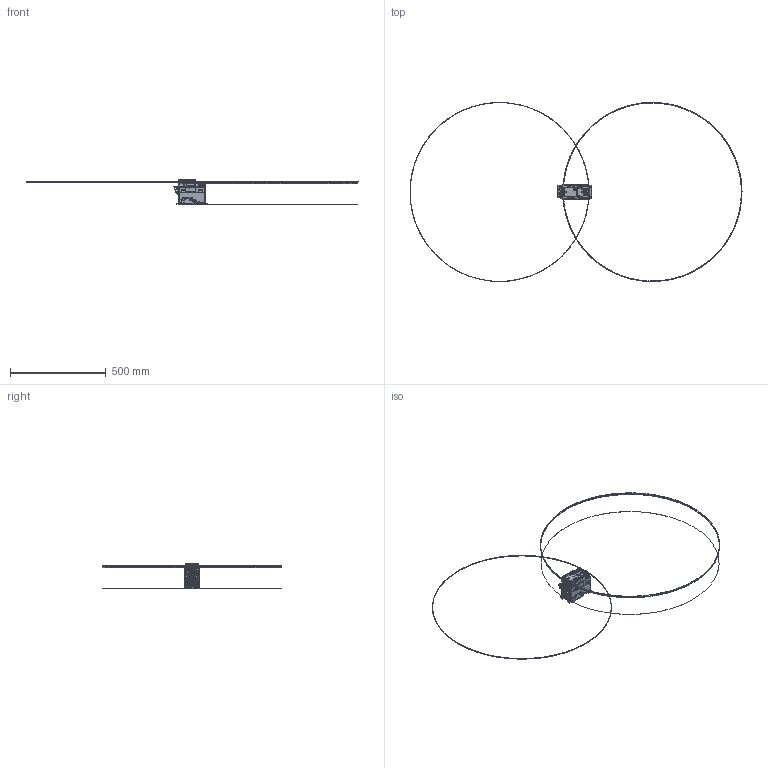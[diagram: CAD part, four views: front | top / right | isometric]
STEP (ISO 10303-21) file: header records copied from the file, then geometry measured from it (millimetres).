
FILE_DESCRIPTION((''),'2;1');
FILE_NAME('M400-SIMPLE_SW0001','2014-02-19T',('owenrh01'),(''),'PRO/ENGINEER BY PARAMETRIC TECHNOLOGY CORPORATION, 2011490','PRO/ENGINEER BY PARAMETRIC TECHNOLOGY CORPORATION, 2011490','');
FILE_SCHEMA(('CONFIG_CONTROL_DESIGN'));
Products named in the file (1): M400-SIMPLE_SW0001
Bounding box: 1738.19 x 938.51 x 129.98 mm (x, y, z)
Surface area: 273305.5 mm2 (no closed solid volume)
Topology: 0 solids, 0 shells, 2726 faces, 18285 edges, 18165 vertices
Faces by surface type: bspline 2584, torus 125, sphere 17
Entity records: 358025 total; most frequent: CARTESIAN_POINT 198021, DIRECTION 23336, TRIMMED_CURVE 21047, VECTOR 19042, LINE 19042, DEFINITIONAL_REPRESENTATION 18028, PCURVE 18028, COMPOSITE_CURVE_SEGMENT 18028
